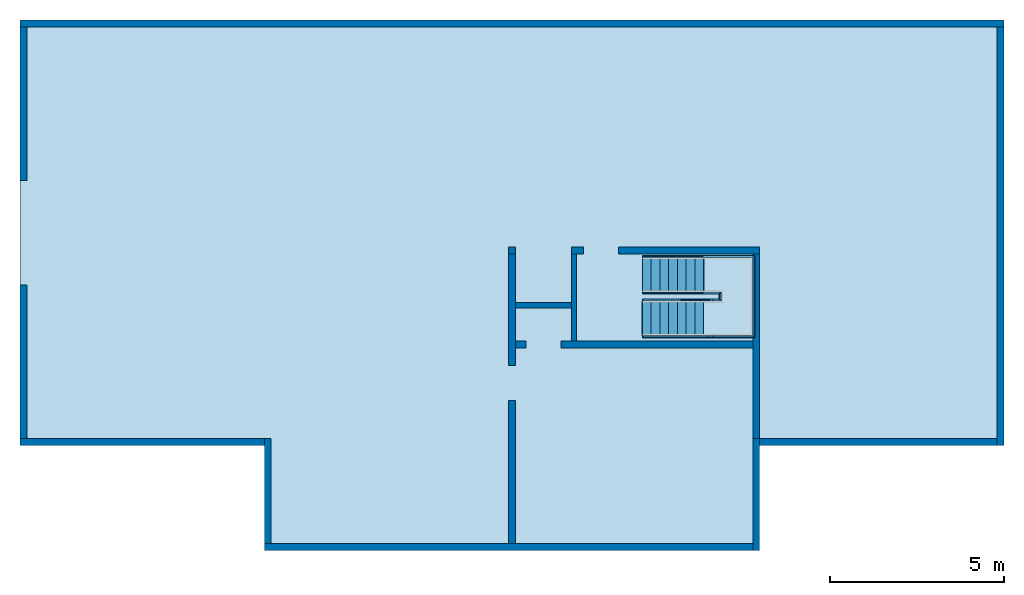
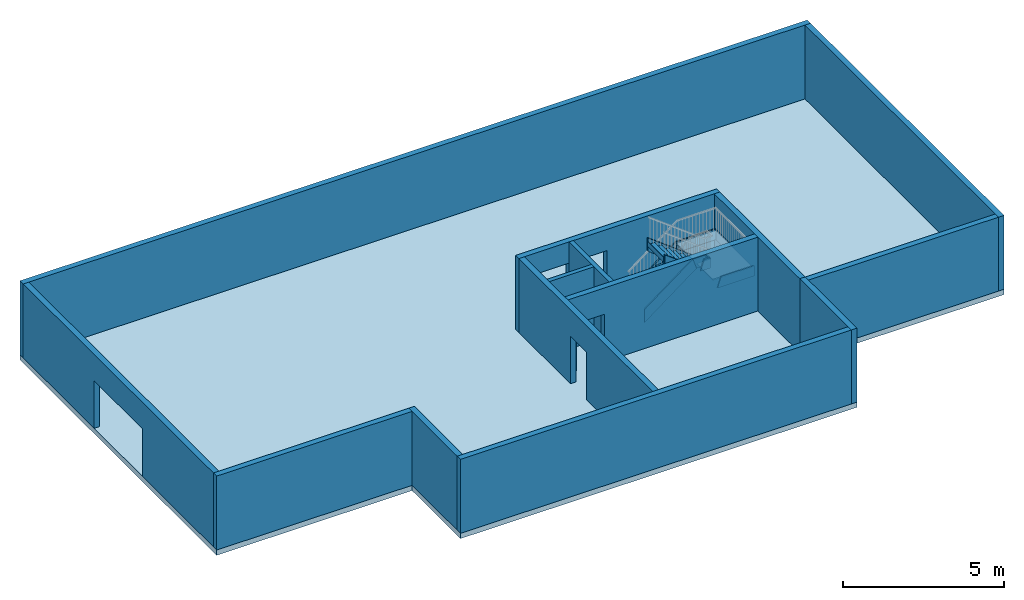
# One storey, part 1 of 2: 14 walls, 10 members, 2 slabs, 2 stair flights, 5 openings, 1 element without a shape of its own.
"""IFC2X3 building model written with IfcOpenShell, lengths in metres."""

from ifc_helpers import new_model, entity, si_unit, converted_unit, derived_unit, direction, frame, frame_2d, origin, origin_2d_with_axis, place, context, subcontext, project, spatial, polyline, rectangle, outline, extrude, faceted_brep, material, layer, layer_set, layer_usage, type_object, element, aggregate, save


model = new_model("IFC2X3")

# Units and contexts
model_context = context("Model", 3, precision=1e-05, world=origin(), true_north=direction((6.12303176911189e-17, 1.0)))
body_context = subcontext(model_context, "Body", "Model", "MODEL_VIEW")
ifc_project = project(units=[si_unit("LENGTHUNIT", "METRE"), si_unit("AREAUNIT", "SQUARE_METRE"), si_unit("VOLUMEUNIT", "CUBIC_METRE"), converted_unit("PLANEANGLEUNIT", "DEGREE", entity("IfcRatioMeasure", 0.0174532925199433), si_unit("PLANEANGLEUNIT", "RADIAN"), dimensions=[0, 0, 0, 0, 0, 0, 0]), si_unit("MASSUNIT", "GRAM", prefix="KILO"), derived_unit("MASSDENSITYUNIT", [(si_unit("MASSUNIT", "GRAM", prefix="KILO"), 1), (si_unit("LENGTHUNIT", "METRE"), -3)]), si_unit("TIMEUNIT", "SECOND"), si_unit("FREQUENCYUNIT", "HERTZ"), si_unit("THERMODYNAMICTEMPERATUREUNIT", "DEGREE_CELSIUS"), derived_unit("THERMALTRANSMITTANCEUNIT", [(si_unit("MASSUNIT", "GRAM", prefix="KILO"), 1), (si_unit("THERMODYNAMICTEMPERATUREUNIT", "KELVIN"), -1), (si_unit("TIMEUNIT", "SECOND"), -3)]), derived_unit("VOLUMETRICFLOWRATEUNIT", [(si_unit("LENGTHUNIT", "METRE"), 3), (si_unit("TIMEUNIT", "SECOND"), -1)]), si_unit("ELECTRICCURRENTUNIT", "AMPERE"), si_unit("ELECTRICVOLTAGEUNIT", "VOLT"), si_unit("POWERUNIT", "WATT"), si_unit("FORCEUNIT", "NEWTON"), si_unit("ILLUMINANCEUNIT", "LUX"), si_unit("LUMINOUSFLUXUNIT", "LUMEN"), si_unit("LUMINOUSINTENSITYUNIT", "CANDELA"), derived_unit("USERDEFINED", [(si_unit("MASSUNIT", "GRAM", prefix="KILO"), -1), (si_unit("LENGTHUNIT", "METRE"), -2), (si_unit("TIMEUNIT", "SECOND"), 3), (si_unit("LUMINOUSFLUXUNIT", "LUMEN"), 1)]), derived_unit("LINEARVELOCITYUNIT", [(si_unit("LENGTHUNIT", "METRE"), 1), (si_unit("TIMEUNIT", "SECOND"), -1)]), si_unit("PRESSUREUNIT", "PASCAL"), derived_unit("USERDEFINED", [(si_unit("LENGTHUNIT", "METRE"), -2), (si_unit("MASSUNIT", "GRAM", prefix="KILO"), 1), (si_unit("TIMEUNIT", "SECOND"), -2)])], contexts=[model_context])

# Site, building, storey
site_placement = place(None, origin())
site = spatial("IfcSite", under=ifc_project, at=site_placement, Name="Default", CompositionType="ELEMENT")
building_placement = place(site_placement, origin())
building = spatial("IfcBuilding", under=site, at=building_placement, CompositionType="ELEMENT")
storey_placement = place(building_placement, frame((0.0, 0.0, -3.0)))
storey = spatial("IfcBuildingStorey", under=building, at=storey_placement, Name="R-1", CompositionType="ELEMENT", Elevation=-3.00000000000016)

# Stair, members
stair_placement = place(storey_placement, origin())
stair = element("IfcStair", 1, at=stair_placement, inside=storey, Name="Escalier assemblé:Escalier", ObjectType="Escalier assemblé:Contremarche 190 mm max marche 250\xa0mm", ShapeType="NOTDEFINED")
member_type = type_object("IfcMemberType", Name="Limon à la française:Limon à la française - 50 mm de largeur", PredefinedType="STRINGER")
member_1_placement = place(stair_placement, origin())
member_1 = element("IfcMember", 2, at=member_1_placement, type_object=member_type, Name="Escalier assemblé:Escalier:468480 Stringer 1", ObjectType="Escalier assemblé:Contremarche 190 mm max marche 250\xa0mm", context=body_context, shape_type="SweptSolid", body=[
    extrude(outline(polyline([(-0.973212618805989, -0.200000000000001), (1.19067644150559, -0.200000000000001), (1.0569252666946, 0.2), (-1.27438908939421, 0.2), (-0.973212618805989, -0.200000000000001)])), frame((6.43043564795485, 2.2618101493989, 0.85311287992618), z_axis=(0.0, 1.0, 0.0), x_axis=(0.798870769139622, 0.0, 0.601502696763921)), (0.0, 0.0, 1.0), 0.05),
])
member_2_placement = place(stair_placement, origin())
member_2 = element("IfcMember", 3, at=member_2_placement, type_object=member_type, Name="Escalier assemblé:Escalier:468480 Stringer 2", ObjectType="Escalier assemblé:Contremarche 190 mm max marche 250\xa0mm", context=body_context, shape_type="SweptSolid", body=[
    extrude(outline(polyline([(-0.973212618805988, -0.2), (1.19067644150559, -0.2), (1.0569252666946, 0.200000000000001), (-1.27438908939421, 0.2), (-0.973212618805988, -0.2)])), frame((6.43043564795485, 1.2118101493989, 0.853112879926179), z_axis=(0.0, 1.0, 0.0), x_axis=(0.798870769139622, 0.0, 0.601502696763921)), (0.0, 0.0, 1.0), 0.0500000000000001),
])
member_3_placement = place(stair_placement, origin())
member_3 = element("IfcMember", 4, at=member_3_placement, type_object=member_type, Name="Escalier assemblé:Escalier:468480 Stringer 3", ObjectType="Escalier assemblé:Contremarche 190 mm max marche 250\xa0mm", context=body_context, shape_type="SweptSolid", body=[
    extrude(outline(polyline([(-1.2901377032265, -0.2), (1.0726738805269, -0.2), (1.37385035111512, 0.2), (-1.15638652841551, 0.200000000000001), (-1.2901377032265, -0.2)])), frame((6.50989234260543, -0.0381898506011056, 2.26487758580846), z_axis=(0.0, 1.0, 0.0), x_axis=(-0.798870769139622, 0.0, 0.60150269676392)), (0.0, 0.0, 1.0), 0.05),
])
member_4_placement = place(stair_placement, origin())
member_4 = element("IfcMember", 5, at=member_4_placement, type_object=member_type, Name="Escalier assemblé:Escalier:468480 Stringer 4", ObjectType="Escalier assemblé:Contremarche 190 mm max marche 250\xa0mm", context=body_context, shape_type="SweptSolid", body=[
    extrude(outline(polyline([(-1.2901377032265, -0.2), (1.0726738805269, -0.2), (1.37385035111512, 0.2), (-1.15638652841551, 0.2), (-1.2901377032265, -0.2)])), frame((6.50989234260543, 1.01181014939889, 2.26487758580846), z_axis=(0.0, 1.0, 0.0), x_axis=(-0.798870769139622, 0.0, 0.60150269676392)), (0.0, 0.0, 1.0), 0.05),
])
member_5_placement = place(stair_placement, frame((7.42024510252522, -0.0381898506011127, 1.32908212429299)))
member_5 = element("IfcMember", 6, at=member_5_placement, type_object=member_type, Name="Escalier assemblé:Escalier:468480 Stringer 5", ObjectType="Escalier assemblé:Contremarche 190 mm max marche 250\xa0mm", context=body_context, shape_type="Brep", body=[
    faceted_brep([(0.133751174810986, 0.0500000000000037, 0.4), (0.133751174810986, 0.0, 0.4), (1.32241889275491, 0.0, 0.4), (1.27241889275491, 0.0500000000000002, 0.4), (0.0, 0.0500000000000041, 0.0), (1.27241889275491, 0.0500000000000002, 0.0), (0.0, 0.0, 0.0), (1.32241889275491, 0.0, 0.0)], [[[0, 1, 2, 3]], [[4, 0, 3, 5]], [[6, 4, 5, 7]], [[1, 6, 7, 2]], [[1, 0, 4, 6]], [[2, 7, 5, 3]]]),
])
member_6_placement = place(stair_placement, origin())
member_6 = element("IfcMember", 7, at=member_6_placement, type_object=member_type, Name="Escalier assemblé:Escalier:468480 Stringer 6", ObjectType="Escalier assemblé:Contremarche 190 mm max marche 250\xa0mm", context=body_context, shape_type="SweptSolid", body=[
    extrude(outline(polyline([(-1.17500000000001, -0.0249999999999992), (1.17500000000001, -0.0249999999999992), (1.125, 0.0250000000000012), (-1.125, 0.0250000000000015), (-1.17500000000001, -0.0249999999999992)])), frame((8.71766399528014, 1.13681014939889, 1.32908212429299), z_axis=(0.0, 0.0, 1.0), x_axis=(0.0, 1.0, 0.0)), (0.0, 0.0, 1.0), 0.4),
])
member_7_placement = place(stair_placement, frame((7.26133171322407, 2.2618101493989, 1.32908212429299)))
member_7 = element("IfcMember", 8, at=member_7_placement, type_object=member_type, Name="Escalier assemblé:Escalier:468480 Stringer 7", ObjectType="Escalier assemblé:Contremarche 190 mm max marche 250\xa0mm", context=body_context, shape_type="Brep", body=[
    faceted_brep([(1.43133228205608, 0.0, 0.4), (1.48133228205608, 0.0499999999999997, 0.4), (0.0, 0.0500000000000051, 0.4), (0.0, 0.0, 0.4), (1.43133228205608, 0.0, 0.0), (0.133751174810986, 0.0, 0.0), (1.48133228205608, 0.0499999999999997, 0.0), (0.133751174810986, 0.0500000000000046, 0.0)], [[[0, 1, 2, 3]], [[4, 0, 3, 5]], [[6, 4, 5, 7]], [[1, 6, 7, 2]], [[1, 0, 4, 6]], [[2, 7, 5, 3]]]),
])
member_8_placement = place(stair_placement, frame((7.26133171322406, 1.2118101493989, 1.32908212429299)))
member_8 = element("IfcMember", 9, at=member_8_placement, type_object=member_type, Name="Escalier assemblé:Escalier:468480 Stringer 8", ObjectType="Escalier assemblé:Contremarche 190 mm max marche 250\xa0mm", context=body_context, shape_type="Brep", body=[
    faceted_brep([(0.0, 0.0500000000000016, 0.4), (0.0, 0.0, 0.4), (0.471332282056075, 0.0, 0.4), (0.521332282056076, 0.0499999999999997, 0.4), (0.133751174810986, 0.0500000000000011, 0.0), (0.521332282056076, 0.0499999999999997, 0.0), (0.133751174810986, 0.0, 0.0), (0.471332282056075, 0.0, 0.0)], [[[0, 1, 2, 3]], [[4, 0, 3, 5]], [[6, 4, 5, 7]], [[1, 6, 7, 2]], [[1, 0, 4, 6]], [[2, 7, 5, 3]]]),
])
member_9_placement = place(stair_placement, origin())
member_9 = element("IfcMember", 10, at=member_9_placement, type_object=member_type, Name="Escalier assemblé:Escalier:468480 Stringer 9", ObjectType="Escalier assemblé:Contremarche 190 mm max marche 250\xa0mm", context=body_context, shape_type="SweptSolid", body=[
    extrude(outline(polyline([(-0.0750000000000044, -0.0250000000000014), (0.0750000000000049, -0.0250000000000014), (0.125000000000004, 0.0249999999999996), (-0.125000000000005, 0.0249999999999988), (-0.0750000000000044, -0.0250000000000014)])), frame((7.75766399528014, 1.13681014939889, 1.32908212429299), z_axis=(0.0, 0.0, 1.0), x_axis=(0.0, -1.0, 0.0)), (0.0, 0.0, 1.0), 0.4),
])
member_10_placement = place(stair_placement, frame((7.42024510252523, 1.01181014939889, 1.32908212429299)))
member_10 = element("IfcMember", 11, at=member_10_placement, type_object=member_type, Name="Escalier assemblé:Escalier:468480 Stringer 10", ObjectType="Escalier assemblé:Contremarche 190 mm max marche 250\xa0mm", context=body_context, shape_type="Brep", body=[
    faceted_brep([(0.362418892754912, 0.0, 0.4), (0.312418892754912, 0.0500000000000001, 0.4), (0.133751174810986, 0.0500000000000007, 0.4), (0.133751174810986, 0.0, 0.4), (0.362418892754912, 0.0, 0.0), (0.0, 0.0, 0.0), (0.312418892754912, 0.0500000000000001, 0.0), (0.0, 0.0500000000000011, 0.0)], [[[0, 1, 2, 3]], [[4, 0, 3, 5]], [[6, 4, 5, 7]], [[1, 6, 7, 2]], [[1, 0, 4, 6]], [[2, 7, 5, 3]]]),
])

# Slab
ifc_material_1 = material(Name="Béton - Coulé sur place - Béton20")
ifc_layer_1 = layer(ifc_material_1, 0.2)
ifc_layer_set_1 = layer_set([ifc_layer_1], Name="Sol:Dalle pleine 200 mm")
ifc_layer_usage_1 = layer_usage(ifc_layer_set_1, "AXIS3", "POSITIVE", 0.0)
slab_1_placement = place(storey_placement, origin())
element("IfcSlab", 12, at=slab_1_placement, inside=storey, material=ifc_layer_usage_1, Name="Sol:Dalle pleine 200 mm", ObjectType="Sol:Dalle pleine 200 mm", PredefinedType="FLOOR", context=body_context, shape_type="SweptSolid", body=[
    extrude(outline(polyline([(-2.29999999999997, -14.1), (9.90000000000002, -14.1), (9.89999999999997, 14.1), (-2.30000000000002, 14.1), (-2.30000000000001, 7.1), (-5.30000000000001, 7.1), (-5.29999999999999, -7.1), (-2.29999999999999, -7.1), (-2.29999999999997, -14.1)])), frame((1.79266399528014, -0.838189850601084, 0.199999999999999), z_axis=(0.0, 0.0, -1.0), x_axis=(0.0, 1.0, 0.0)), (0.0, 0.0, 1.0), 0.2),
])

slab_2_placement = place(stair_placement, origin())
slab_2 = element("IfcSlab", 13, at=slab_2_placement, Name="Escalier assemblé:Escalier:468480 Landing 1", ObjectType="Escalier assemblé:Contremarche 190 mm max marche 250\xa0mm", PredefinedType="LANDING", context=body_context, shape_type="SweptSolid", body=[
    extrude(outline(polyline([(-1.125, -0.477500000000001), (-0.125000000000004, -0.477500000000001), (-0.125000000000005, 0.0225000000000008), (0.125000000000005, 0.0225000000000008), (0.125000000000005, -0.477499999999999), (1.12500000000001, -0.477499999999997), (1.125, 0.932500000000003), (-1.12500000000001, 0.932500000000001), (-1.125, -0.477500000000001)])), frame((7.76016399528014, 1.1368101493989, 1.63235294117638), z_axis=(0.0, 0.0, 1.0), x_axis=(0.0, -1.0, 0.0)), (0.0, 0.0, 1.0), 0.05),
])

# Walls
ifc_layer_2 = layer(ifc_material_1, 0.2)
ifc_layer_set_2 = layer_set([ifc_layer_2], Name="Mur de base:Générique - 200 mm")
ifc_layer_usage_2 = layer_usage(ifc_layer_set_2, "AXIS2", "NEGATIVE", 0.1)
wall_type_1 = type_object("IfcWallType", Name="Mur de base:Générique - 200 mm", PredefinedType="STANDARD", material=ifc_layer_set_2)
wall_1_placement = place(storey_placement, frame((-12.3073360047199, 8.96181014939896, 0.2)))
element("IfcWallStandardCase", 14, at=wall_1_placement, inside=storey, type_object=wall_type_1, material=ifc_layer_usage_2, Name="Mur de base:Générique - 200 mm", ObjectType="Mur de base:Générique - 200 mm:1044", context=body_context, shape_type="SweptSolid", body=[
    extrude(rectangle(XDim=28.2, YDim=0.2, at=frame_2d((14.1, 3.19189119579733e-16), x_axis=(-1.0, 0.0))), origin(), (0.0, 0.0, 1.0), 2.80000000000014),
])
ifc_layer_usage_3 = layer_usage(ifc_layer_set_2, "AXIS2", "NEGATIVE", 0.1)
wall_2_placement = place(storey_placement, frame((15.7926639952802, 8.86181014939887, 0.2), z_axis=(0.0, 0.0, 1.0), x_axis=(0.0, -1.0, 0.0)))
element("IfcWallStandardCase", 15, at=wall_2_placement, inside=storey, type_object=wall_type_1, material=ifc_layer_usage_3, Name="Mur de base:Générique - 200 mm", ObjectType="Mur de base:Générique - 200 mm:1044", context=body_context, shape_type="SweptSolid", body=[
    extrude(rectangle(XDim=12.0, YDim=0.200000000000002, at=frame_2d((6.0, 0.0), x_axis=(-1.0, 0.0))), origin(), (0.0, 0.0, 1.0), 2.80000000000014),
])
ifc_layer_usage_4 = layer_usage(ifc_layer_set_2, "AXIS2", "NEGATIVE", 0.1)
wall_3_placement = place(storey_placement, frame((15.6926639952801, -3.03818985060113, 0.2), z_axis=(0.0, 0.0, 1.0), x_axis=(-1.0, 0.0, 0.0)))
element("IfcWallStandardCase", 16, at=wall_3_placement, inside=storey, type_object=wall_type_1, material=ifc_layer_usage_4, Name="Mur de base:Générique - 200 mm", ObjectType="Mur de base:Générique - 200 mm:1044", context=body_context, shape_type="SweptSolid", body=[
    extrude(rectangle(XDim=6.8, YDim=0.2, at=frame_2d((3.4, 2.22044604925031e-16), x_axis=(-1.0, 0.0))), origin(), (0.0, 0.0, 1.0), 2.80000000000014),
])
ifc_layer_usage_5 = layer_usage(ifc_layer_set_2, "AXIS2", "NEGATIVE", 0.1)
wall_4_placement = place(storey_placement, frame((8.79266399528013, -2.93818985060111, 0.2), z_axis=(0.0, 0.0, 1.0), x_axis=(0.0, -1.0, 0.0)))
element("IfcWallStandardCase", 17, at=wall_4_placement, inside=storey, type_object=wall_type_1, material=ifc_layer_usage_5, Name="Mur de base:Générique - 200 mm", ObjectType="Mur de base:Générique - 200 mm:1044", context=body_context, shape_type="SweptSolid", body=[
    extrude(rectangle(XDim=3.2, YDim=0.2, at=frame_2d((1.6, 1.45716771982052e-16), x_axis=(-1.0, 0.0))), origin(), (0.0, 0.0, 1.0), 2.80000000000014),
])
ifc_layer_usage_6 = layer_usage(ifc_layer_set_2, "AXIS2", "NEGATIVE", 0.1)
wall_5_placement = place(storey_placement, frame((8.69266399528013, -6.03818985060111, 0.2), z_axis=(0.0, 0.0, 1.0), x_axis=(-1.0, 0.0, 0.0)))
element("IfcWallStandardCase", 18, at=wall_5_placement, inside=storey, type_object=wall_type_1, material=ifc_layer_usage_6, Name="Mur de base:Générique - 200 mm", ObjectType="Mur de base:Générique - 200 mm:1044", context=body_context, shape_type="SweptSolid", body=[
    extrude(rectangle(XDim=14.0, YDim=0.2, at=frame_2d((7.0, 0.0), x_axis=(-1.0, 0.0))), origin(), (0.0, 0.0, 1.0), 2.80000000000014),
])
ifc_layer_usage_7 = layer_usage(ifc_layer_set_2, "AXIS2", "NEGATIVE", 0.1)
wall_6_placement = place(storey_placement, frame((-5.20733600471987, -5.93818985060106, 0.2), z_axis=(0.0, 0.0, 1.0), x_axis=(0.0, 1.0, 0.0)))
element("IfcWallStandardCase", 19, at=wall_6_placement, inside=storey, type_object=wall_type_1, material=ifc_layer_usage_7, Name="Mur de base:Générique - 200 mm", ObjectType="Mur de base:Générique - 200 mm:1044", context=body_context, shape_type="SweptSolid", body=[
    extrude(rectangle(XDim=3.0, YDim=0.2, at=frame_2d((1.5, -2.22044604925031e-16), x_axis=(-1.0, 0.0))), origin(), (0.0, 0.0, 1.0), 2.80000000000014),
])
ifc_layer_usage_8 = layer_usage(ifc_layer_set_2, "AXIS2", "NEGATIVE", 0.1)
wall_7_placement = place(storey_placement, frame((-5.30733600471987, -3.03818985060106, 0.2), z_axis=(0.0, 0.0, 1.0), x_axis=(-1.0, 0.0, 0.0)))
element("IfcWallStandardCase", 20, at=wall_7_placement, inside=storey, type_object=wall_type_1, material=ifc_layer_usage_8, Name="Mur de base:Générique - 200 mm", ObjectType="Mur de base:Générique - 200 mm:1044", context=body_context, shape_type="SweptSolid", body=[
    extrude(rectangle(XDim=7.0, YDim=0.2, at=frame_2d((3.5, 0.0), x_axis=(-1.0, 0.0))), origin(), (0.0, 0.0, 1.0), 2.80000000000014),
])

# Wall, opening
ifc_layer_usage_9 = layer_usage(ifc_layer_set_2, "AXIS2", "NEGATIVE", 0.1)
wall_8_placement = place(storey_placement, frame((-12.2073360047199, -2.93818985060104, 0.2), z_axis=(0.0, 0.0, 1.0), x_axis=(0.0, 1.0, 0.0)))
wall_8 = element("IfcWallStandardCase", 21, at=wall_8_placement, inside=storey, type_object=wall_type_1, material=ifc_layer_usage_9, Name="Mur de base:Générique - 200 mm", ObjectType="Mur de base:Générique - 200 mm:1044", context=body_context, shape_type="SweptSolid", body=[
    extrude(rectangle(XDim=11.8, YDim=0.199999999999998, at=frame_2d((5.9, -1.59594559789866e-16), x_axis=(-1.0, 0.0))), origin(), (0.0, 0.0, 1.0), 2.80000000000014),
])
opening_1_placement = place(wall_8_placement, frame((2.93818985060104, -12.2073360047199, -0.2), z_axis=(0.0, 0.0, 1.0), x_axis=(0.0, -1.0, 0.0)))
element("IfcOpeningElement", 22, at=opening_1_placement, cuts=wall_8, Name="Mur de base:Générique - 200 mm", ObjectType="Opening", context=body_context, shape_type="SweptSolid", body=[
    extrude(rectangle(XDim=2.0, YDim=3.0, at=frame_2d((1.11022302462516e-16, 0.0), x_axis=(1.0, 0.0))), frame((-10.7833360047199, 2.96181014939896, 1.0), z_axis=(-1.0, 0.0, 0.0), x_axis=(0.0, 0.0, -1.0)), (0.0, 0.0, 1.0), 3.048),
])

# Wall, openings
ifc_layer_usage_10 = layer_usage(ifc_layer_set_2, "AXIS2", "NEGATIVE", 0.1)
wall_9_placement = place(storey_placement, frame((8.89266399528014, 2.46181014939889, 0.2), z_axis=(0.0, 0.0, 1.0), x_axis=(-1.0, 0.0, 0.0)))
wall_9 = element("IfcWallStandardCase", 23, at=wall_9_placement, inside=storey, type_object=wall_type_1, material=ifc_layer_usage_10, Name="Mur de base:Générique - 200 mm", ObjectType="Mur de base:Générique - 200 mm:1044", context=body_context, shape_type="SweptSolid", body=[
    extrude(rectangle(XDim=7.2, YDim=0.2, at=frame_2d((3.6, -8.32667268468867e-17), x_axis=(-1.0, 0.0))), origin(), (0.0, 0.0, 1.0), 2.80000000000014),
])
opening_2_placement = place(wall_9_placement, frame((8.89266399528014, 2.46181014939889, -0.2), z_axis=(0.0, 0.0, 1.0), x_axis=(-1.0, 0.0, 0.0)))
element("IfcOpeningElement", 24, at=opening_2_placement, cuts=wall_9, Name="Mur de base:Générique - 200 mm", ObjectType="Opening", context=body_context, shape_type="SweptSolid", body=[
    extrude(rectangle(XDim=2.0, YDim=1.0, at=frame_2d((1.11022302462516e-16, 2.4980018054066e-16), x_axis=(1.0, 0.0))), frame((4.34266399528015, 3.88581014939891, 1.2), z_axis=(0.0, -1.0, 0.0), x_axis=(0.0, 0.0, -1.0)), (0.0, 0.0, 1.0), 3.048),
])
opening_3_placement = place(wall_9_placement, frame((8.89266399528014, 2.46181014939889, -0.2), z_axis=(0.0, 0.0, 1.0), x_axis=(-1.0, 0.0, 0.0)))
element("IfcOpeningElement", 25, at=opening_3_placement, cuts=wall_9, Name="Mur de base:Générique - 200 mm", ObjectType="Opening", context=body_context, shape_type="SweptSolid", body=[
    extrude(rectangle(XDim=2.0, YDim=1.6, at=frame_2d((1.66533453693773e-16, 1.11022302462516e-16), x_axis=(1.0, 0.0))), frame((2.69266399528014, 3.88581014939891, 1.2), z_axis=(0.0, -1.0, 0.0), x_axis=(0.0, 0.0, -1.0)), (0.0, 0.0, 1.0), 3.048),
])

# Wall, opening
ifc_layer_usage_11 = layer_usage(ifc_layer_set_2, "AXIS2", "NEGATIVE", 0.1)
wall_10_placement = place(storey_placement, frame((1.79266399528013, -5.93818985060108, 0.2), z_axis=(0.0, 0.0, 1.0), x_axis=(0.0, 1.0, 0.0)))
wall_10 = element("IfcWallStandardCase", 26, at=wall_10_placement, inside=storey, type_object=wall_type_1, material=ifc_layer_usage_11, Name="Mur de base:Générique - 200 mm", ObjectType="Mur de base:Générique - 200 mm:1044", context=body_context, shape_type="SweptSolid", body=[
    extrude(rectangle(XDim=8.3, YDim=0.2, at=frame_2d((4.15, 1.11022302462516e-16), x_axis=(-1.0, 0.0))), origin(), (0.0, 0.0, 1.0), 2.80000000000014),
])
opening_4_placement = place(wall_10_placement, frame((5.93818985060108, 1.79266399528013, -0.2), z_axis=(0.0, 0.0, 1.0), x_axis=(0.0, -1.0, 0.0)))
element("IfcOpeningElement", 27, at=opening_4_placement, cuts=wall_10, Name="Mur de base:Générique - 200 mm", ObjectType="Opening", context=body_context, shape_type="SweptSolid", body=[
    extrude(rectangle(XDim=2.0, YDim=1.0, at=frame_2d((1.11022302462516e-16, -5.55111512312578e-17), x_axis=(1.0, 0.0))), frame((3.21666399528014, -1.33818985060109, 1.0), z_axis=(-1.0, 0.0, 0.0), x_axis=(0.0, 0.0, -1.0)), (0.0, 0.0, 1.0), 3.048),
])

ifc_layer_usage_12 = layer_usage(ifc_layer_set_2, "AXIS2", "NEGATIVE", 0.1)
wall_11_placement = place(storey_placement, frame((1.89266399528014, -0.238189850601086, 0.2)))
wall_11 = element("IfcWallStandardCase", 28, at=wall_11_placement, inside=storey, type_object=wall_type_1, material=ifc_layer_usage_12, Name="Mur de base:Générique - 200 mm", ObjectType="Mur de base:Générique - 200 mm:1044", context=body_context, shape_type="SweptSolid", body=[
    extrude(rectangle(XDim=6.8, YDim=0.2, at=frame_2d((3.4, 2.08166817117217e-17), x_axis=(-1.0, 0.0))), origin(), (0.0, 0.0, 1.0), 2.80000000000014),
])
opening_5_placement = place(wall_11_placement, frame((-1.89266399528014, 0.238189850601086, -0.2)))
element("IfcOpeningElement", 29, at=opening_5_placement, cuts=wall_11, Name="Mur de base:Générique - 200 mm", ObjectType="Opening", context=body_context, shape_type="SweptSolid", body=[
    extrude(rectangle(XDim=2.0, YDim=1.0, at=frame_2d((1.11022302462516e-16, -1.11022302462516e-16), x_axis=(1.0, 0.0))), frame((2.69266399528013, -1.66218985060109, 1.0), z_axis=(0.0, 1.0, 0.0), x_axis=(0.0, 0.0, -1.0)), (0.0, 0.0, 1.0), 3.048),
])

# Walls
ifc_layer_usage_13 = layer_usage(ifc_layer_set_2, "AXIS2", "NEGATIVE", 0.1)
wall_12_placement = place(storey_placement, frame((8.79266399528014, 2.36181014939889, 0.2), z_axis=(0.0, 0.0, 1.0), x_axis=(0.0, -1.0, 0.0)))
element("IfcWallStandardCase", 30, at=wall_12_placement, inside=storey, type_object=wall_type_1, material=ifc_layer_usage_13, Name="Mur de base:Générique - 200 mm", ObjectType="Mur de base:Générique - 200 mm:1044", context=body_context, shape_type="SweptSolid", body=[
    extrude(rectangle(XDim=5.3, YDim=0.2, at=frame_2d((2.65, -1.59594559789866e-16), x_axis=(-1.0, 0.0))), origin(), (0.0, 0.0, 1.0), 2.80000000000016),
])
ifc_material_2 = material(Name="Blocs béton manufacturés")
ifc_layer_3 = layer(ifc_material_2, 0.15)
ifc_layer_set_3 = layer_set([ifc_layer_3], Name="Mur de base:Générique - 150 mm")
ifc_layer_usage_14 = layer_usage(ifc_layer_set_3, "AXIS2", "NEGATIVE", 0.075)
wall_type_2 = type_object("IfcWallType", Name="Mur de base:Générique - 150 mm", PredefinedType="STANDARD", material=ifc_layer_set_3)
wall_13_placement = place(storey_placement, frame((3.56766399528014, 2.36181014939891, 0.2), z_axis=(0.0, 0.0, 1.0), x_axis=(0.0, -1.0, 0.0)))
element("IfcWallStandardCase", 31, at=wall_13_placement, inside=storey, type_object=wall_type_2, material=ifc_layer_usage_14, Name="Mur de base:Générique - 150 mm", ObjectType="Mur de base:Générique - 150 mm", context=body_context, shape_type="SweptSolid", body=[
    extrude(rectangle(XDim=2.5, YDim=0.149999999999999, at=frame_2d((1.25, -1.59594559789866e-16), x_axis=(-1.0, 0.0))), origin(), (0.0, 0.0, 1.0), 2.80000000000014),
])
ifc_layer_usage_15 = layer_usage(ifc_layer_set_3, "AXIS2", "NEGATIVE", 0.075)
wall_14_placement = place(storey_placement, frame((1.89266399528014, 0.886810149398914, 0.2)))
element("IfcWallStandardCase", 32, at=wall_14_placement, inside=storey, type_object=wall_type_2, material=ifc_layer_usage_15, Name="Mur de base:Générique - 150 mm", ObjectType="Mur de base:Générique - 150 mm", context=body_context, shape_type="SweptSolid", body=[
    extrude(rectangle(XDim=1.6, YDim=0.15, at=frame_2d((0.8, -3.46944695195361e-17), x_axis=(-1.0, 0.0))), origin(), (0.0, 0.0, 1.0), 2.80000000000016),
])

# Stair flight
stair_flight_1_placement = place(stair_placement, origin())
stair_flight_1 = element("IfcStairFlight", 33, at=stair_flight_1_placement, Name="Escalier assemblé:Escalier:468480 Run 1", ObjectType="Escalier assemblé:Contremarche 190 mm max marche 250\xa0mm", NumberOfRiser=8, NumberOfTreads=7, RiserHeight=0.617569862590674, TreadLength=0.820209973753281, context=body_context, shape_type="SweptSolid", body=[
    extrude(rectangle(XDim=1.0, YDim=0.0125000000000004, at=frame_2d((0.0, -5.41233724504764e-16), x_axis=(1.0, 0.0))), frame((5.53891399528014, 1.76181014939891, 0.176470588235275), z_axis=(0.0, 0.0, 1.0), x_axis=(0.0, 1.0, 0.0)), (0.0, 0.0, 1.0), 0.138235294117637),
    extrude(rectangle(XDim=0.249999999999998, YDim=1.0, at=frame_2d((-5.41233724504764e-16, 1.66533453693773e-16), x_axis=(1.0, 0.0))), frame((5.65766399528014, 1.76181014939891, 0.314705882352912), z_axis=(0.0, 0.0, 1.0), x_axis=(-1.0, 0.0, 0.0)), (0.0, 0.0, 1.0), 0.05),
    extrude(rectangle(XDim=1.0, YDim=0.0125000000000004, at=frame_2d((0.0, -5.41233724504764e-16), x_axis=(1.0, 0.0))), frame((5.78891399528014, 1.76181014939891, 0.314705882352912), z_axis=(0.0, 0.0, 1.0), x_axis=(0.0, 1.0, 0.0)), (0.0, 0.0, 1.0), 0.188235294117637),
    extrude(rectangle(XDim=0.250000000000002, YDim=1.0, at=frame_2d((0.0, 1.66533453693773e-16), x_axis=(1.0, 0.0))), frame((5.90766399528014, 1.76181014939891, 0.50294117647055), z_axis=(0.0, 0.0, 1.0), x_axis=(-1.0, 0.0, 0.0)), (0.0, 0.0, 1.0), 0.05),
    extrude(rectangle(XDim=1.0, YDim=0.0125000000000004, at=frame_2d((0.0, -5.41233724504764e-16), x_axis=(1.0, 0.0))), frame((6.03891399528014, 1.76181014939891, 0.50294117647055), z_axis=(0.0, 0.0, 1.0), x_axis=(0.0, 1.0, 0.0)), (0.0, 0.0, 1.0), 0.188235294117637),
    extrude(rectangle(XDim=0.250000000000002, YDim=1.0, at=frame_2d((0.0, -1.66533453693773e-16), x_axis=(1.0, 0.0))), frame((6.15766399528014, 1.76181014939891, 0.691176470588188), z_axis=(0.0, 0.0, 1.0), x_axis=(-1.0, 0.0, 0.0)), (0.0, 0.0, 1.0), 0.05),
    extrude(rectangle(XDim=1.0, YDim=0.0125000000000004, at=frame_2d((0.0, -5.41233724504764e-16), x_axis=(1.0, 0.0))), frame((6.28891399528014, 1.7618101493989, 0.691176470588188), z_axis=(0.0, 0.0, 1.0), x_axis=(0.0, 1.0, 0.0)), (0.0, 0.0, 1.0), 0.188235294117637),
    extrude(rectangle(XDim=0.250000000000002, YDim=1.0, at=frame_2d((0.0, 1.66533453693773e-16), x_axis=(1.0, 0.0))), frame((6.40766399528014, 1.7618101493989, 0.879411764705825), z_axis=(0.0, 0.0, 1.0), x_axis=(-1.0, 0.0, 0.0)), (0.0, 0.0, 1.0), 0.05),
    extrude(rectangle(XDim=1.0, YDim=0.0125000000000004, at=frame_2d((0.0, -5.41233724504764e-16), x_axis=(1.0, 0.0))), frame((6.53891399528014, 1.7618101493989, 0.879411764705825), z_axis=(0.0, 0.0, 1.0), x_axis=(0.0, 1.0, 0.0)), (0.0, 0.0, 1.0), 0.188235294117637),
    extrude(rectangle(XDim=0.250000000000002, YDim=1.0, at=frame_2d((0.0, -1.66533453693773e-16), x_axis=(1.0, 0.0))), frame((6.65766399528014, 1.7618101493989, 1.06764705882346), z_axis=(0.0, 0.0, 1.0), x_axis=(-1.0, 0.0, 0.0)), (0.0, 0.0, 1.0), 0.05),
    extrude(rectangle(XDim=1.0, YDim=0.0125000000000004, at=frame_2d((0.0, 5.41233724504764e-16), x_axis=(1.0, 0.0))), frame((6.78891399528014, 1.7618101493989, 1.06764705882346), z_axis=(0.0, 0.0, 1.0), x_axis=(0.0, 1.0, 0.0)), (0.0, 0.0, 1.0), 0.188235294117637),
    extrude(rectangle(XDim=0.250000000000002, YDim=1.0, at=frame_2d((0.0, 1.66533453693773e-16), x_axis=(1.0, 0.0))), frame((6.90766399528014, 1.7618101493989, 1.2558823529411), z_axis=(0.0, 0.0, 1.0), x_axis=(-1.0, 0.0, 0.0)), (0.0, 0.0, 1.0), 0.05),
    extrude(rectangle(XDim=1.0, YDim=0.0125000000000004, at=frame_2d((0.0, -5.41233724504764e-16), x_axis=(1.0, 0.0))), frame((7.03891399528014, 1.7618101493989, 1.2558823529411), z_axis=(0.0, 0.0, 1.0), x_axis=(0.0, 1.0, 0.0)), (0.0, 0.0, 1.0), 0.188235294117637),
    extrude(rectangle(XDim=0.250000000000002, YDim=1.0, at=frame_2d((-1.08246744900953e-15, -1.66533453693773e-16), x_axis=(1.0, 0.0))), frame((7.15766399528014, 1.7618101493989, 1.44411764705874), z_axis=(0.0, 0.0, 1.0), x_axis=(-1.0, 0.0, 0.0)), (0.0, 0.0, 1.0), 0.05),
    extrude(rectangle(XDim=1.0, YDim=0.0125000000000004, at=origin_2d_with_axis()), frame((7.28891399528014, 1.7618101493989, 1.44411764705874), z_axis=(0.0, 0.0, 1.0), x_axis=(0.0, 1.0, 0.0)), (0.0, 0.0, 1.0), 0.188235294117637),
])

stair_flight_2_placement = place(stair_placement, origin())
stair_flight_2 = element("IfcStairFlight", 34, at=stair_flight_2_placement, Name="Escalier assemblé:Escalier:468480 Run 2", ObjectType="Escalier assemblé:Contremarche 190 mm max marche 250\xa0mm", NumberOfRiser=8, NumberOfTreads=7, RiserHeight=0.617569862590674, TreadLength=0.820209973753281, context=body_context, shape_type="SweptSolid", body=[
    extrude(rectangle(XDim=1.0, YDim=0.0125000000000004, at=frame_2d((0.0, -1.08290112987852e-15), x_axis=(1.0, 0.0))), frame((7.27641399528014, 0.511810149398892, 1.63235294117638), z_axis=(0.0, 0.0, 1.0), x_axis=(0.0, -1.0, 0.0)), (0.0, 0.0, 1.0), 0.188235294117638),
    extrude(rectangle(XDim=0.249999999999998, YDim=1.0, at=frame_2d((5.41233724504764e-16, -2.77555756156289e-17), x_axis=(1.0, 0.0))), frame((7.15766399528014, 0.511810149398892, 1.82058823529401)), (0.0, 0.0, 1.0), 0.05),
    extrude(rectangle(XDim=1.0, YDim=0.0125000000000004, at=origin_2d_with_axis()), frame((7.02641399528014, 0.511810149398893, 1.82058823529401), z_axis=(0.0, 0.0, 1.0), x_axis=(0.0, -1.0, 0.0)), (0.0, 0.0, 1.0), 0.188235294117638),
    extrude(rectangle(XDim=0.250000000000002, YDim=1.0, at=frame_2d((5.41233724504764e-16, -2.77555756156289e-17), x_axis=(1.0, 0.0))), frame((6.90766399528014, 0.511810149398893, 2.00882352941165)), (0.0, 0.0, 1.0), 0.05),
    extrude(rectangle(XDim=1.0, YDim=0.0125000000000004, at=frame_2d((0.0, 1.08290112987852e-15), x_axis=(1.0, 0.0))), frame((6.77641399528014, 0.511810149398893, 2.00882352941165), z_axis=(0.0, 0.0, 1.0), x_axis=(0.0, -1.0, 0.0)), (0.0, 0.0, 1.0), 0.188235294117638),
    extrude(rectangle(XDim=0.250000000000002, YDim=1.0, at=frame_2d((-5.41233724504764e-16, 2.77555756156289e-17), x_axis=(1.0, 0.0))), frame((6.65766399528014, 0.511810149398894, 2.19705882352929)), (0.0, 0.0, 1.0), 0.05),
    extrude(rectangle(XDim=1.0, YDim=0.0125000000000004, at=origin_2d_with_axis()), frame((6.52641399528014, 0.511810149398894, 2.19705882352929), z_axis=(0.0, 0.0, 1.0), x_axis=(0.0, -1.0, 0.0)), (0.0, 0.0, 1.0), 0.188235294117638),
    extrude(rectangle(XDim=0.250000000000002, YDim=1.0, at=frame_2d((-5.41233724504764e-16, 2.77555756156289e-17), x_axis=(1.0, 0.0))), frame((6.40766399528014, 0.511810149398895, 2.38529411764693)), (0.0, 0.0, 1.0), 0.05),
    extrude(rectangle(XDim=1.0, YDim=0.0125000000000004, at=origin_2d_with_axis()), frame((6.27641399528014, 0.511810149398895, 2.38529411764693), z_axis=(0.0, 0.0, 1.0), x_axis=(0.0, -1.0, 0.0)), (0.0, 0.0, 1.0), 0.188235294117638),
    extrude(rectangle(XDim=0.250000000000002, YDim=1.0, at=frame_2d((-5.41233724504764e-16, 2.77555756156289e-17), x_axis=(1.0, 0.0))), frame((6.15766399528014, 0.511810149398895, 2.57352941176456)), (0.0, 0.0, 1.0), 0.05),
    extrude(rectangle(XDim=1.0, YDim=0.0125000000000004, at=origin_2d_with_axis()), frame((6.02641399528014, 0.511810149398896, 2.57352941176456), z_axis=(0.0, 0.0, 1.0), x_axis=(0.0, -1.0, 0.0)), (0.0, 0.0, 1.0), 0.188235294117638),
    extrude(rectangle(XDim=0.250000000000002, YDim=1.0, at=frame_2d((-5.41233724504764e-16, 0.0), x_axis=(1.0, 0.0))), frame((5.90766399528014, 0.511810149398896, 2.7617647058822)), (0.0, 0.0, 1.0), 0.05),
    extrude(rectangle(XDim=1.0, YDim=0.0125000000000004, at=origin_2d_with_axis()), frame((5.77641399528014, 0.511810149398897, 2.7617647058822), z_axis=(0.0, 0.0, 1.0), x_axis=(0.0, -1.0, 0.0)), (0.0, 0.0, 1.0), 0.188235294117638),
    extrude(rectangle(XDim=0.250000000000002, YDim=1.0, at=frame_2d((-5.41233724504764e-16, 0.0), x_axis=(1.0, 0.0))), frame((5.65766399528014, 0.511810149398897, 2.94999999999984)), (0.0, 0.0, 1.0), 0.05),
    extrude(rectangle(XDim=1.0, YDim=0.0125000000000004, at=frame_2d((0.0, -1.08290112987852e-15), x_axis=(1.0, 0.0))), frame((5.52641399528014, 0.511810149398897, 2.94999999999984), z_axis=(0.0, 0.0, 1.0), x_axis=(0.0, -1.0, 0.0)), (0.0, 0.0, 1.0), 0.188235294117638),
])

aggregate(stair, [stair_flight_1, stair_flight_2, slab_2, member_1, member_2, member_3, member_4, member_5, member_6, member_7, member_8, member_9, member_10])

save(model, "model.ifc")
